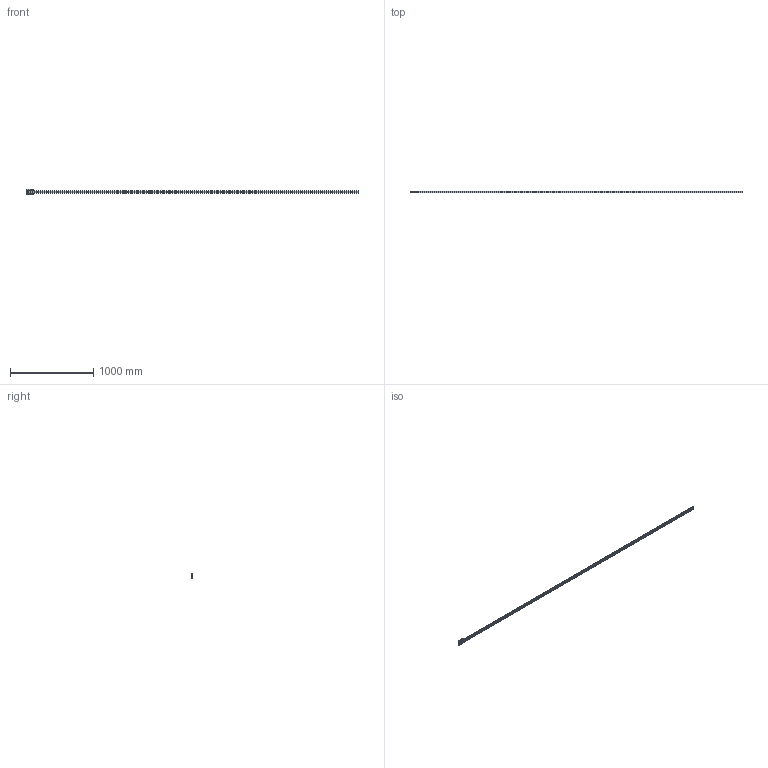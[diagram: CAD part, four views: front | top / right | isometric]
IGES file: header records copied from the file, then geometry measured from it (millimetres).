
Start section: Data from Parasolid IGES Translator 20.0.26, Copyright(c) 2006 Siemens P LM Software. All Rights Reserved.
Global section: file name: FDE15 84395T_4000-0-0.igs; native system: By Siemens PLM Incorporated; preprocessor: XPlus GENERIC/IGES 20.0.26; author: Noname; organization: Noname; date: 20220623.024834; units: millimetre
Bounding box: 4000 x 24 x 61.8 mm (x, y, z)
Surface area: 622198.1 mm2 (no closed solid volume)
Topology: 0 solids, 0 shells, 884 faces, 4364 edges, 4073 vertices
Faces by surface type: extrusion 498, revolution 386
